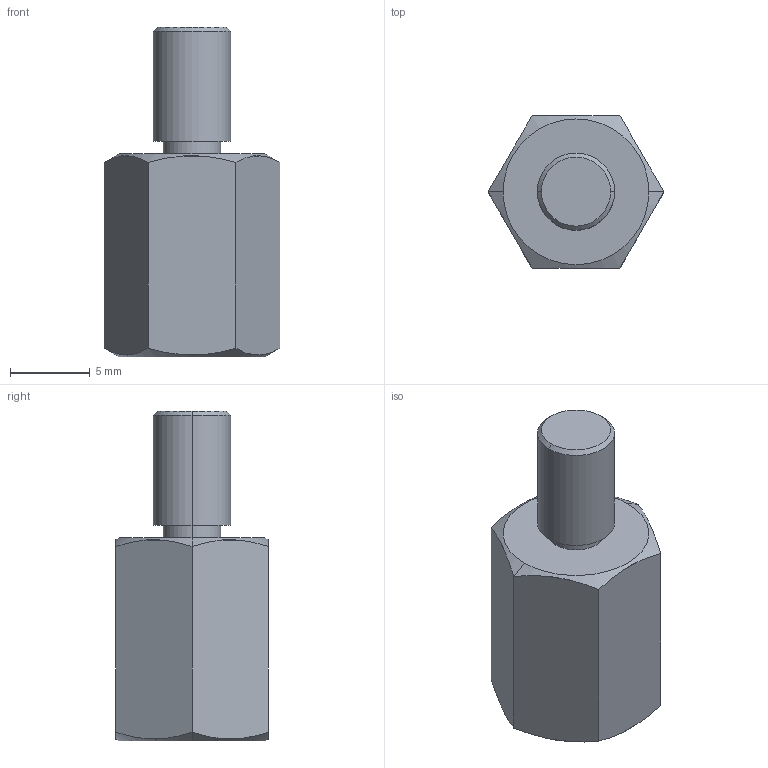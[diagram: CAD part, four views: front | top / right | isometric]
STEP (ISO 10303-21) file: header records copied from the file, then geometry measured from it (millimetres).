
FILE_DESCRIPTION((''),'1');
FILE_NAME('1','2001-04-17T',('jlue'),(''),'PRO/ENGINEER BY PARAMETRIC TECHNOLOGY CORPORATION, 9846','PRO/ENGINEER BY PARAMETRIC TECHNOLOGY CORPORATION, 9846','');
FILE_SCHEMA(('CONFIG_CONTROL_DESIGN'));
Length unit declared in the file: inch
Products named in the file (1): 1
Bounding box: 11 x 9.53 x 20.62 mm (x, y, z)
Surface area: 812 mm2 (no closed solid volume)
Topology: 0 solids, 0 shells, 25 faces, 119 edges, 122 vertices
Faces by surface type: plane 11, cone 8, cylinder 6
Entity records: 985 total; most frequent: CARTESIAN_POINT 455, COMPOSITE_CURVE_SEGMENT 117, DIRECTION 112, AXIS2_PLACEMENT_3D 45, TRIMMED_CURVE 42, CURVE_BOUNDED_SURFACE 25, B_SPLINE_CURVE_WITH_KNOTS 25, OUTER_BOUNDARY_CURVE 25
